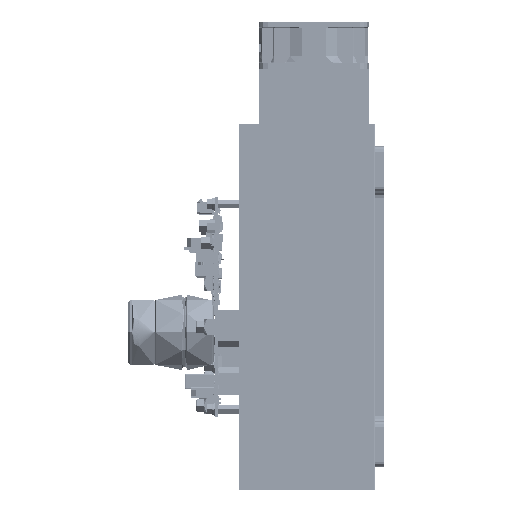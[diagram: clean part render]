
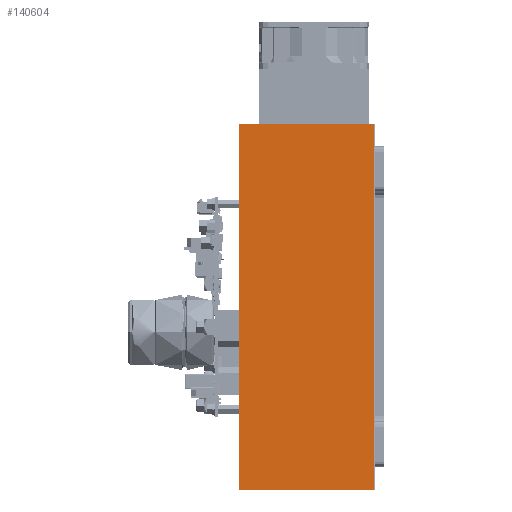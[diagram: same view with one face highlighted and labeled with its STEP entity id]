
A CAD part, left-side view. The second image highlights one B-rep face of the part: STEP entity #140604.
In plain terms, the highlighted planar face has unit normal (-1, 0, 0).
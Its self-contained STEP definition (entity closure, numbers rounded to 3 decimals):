
#17890 = VECTOR ( 'NONE', #834498, 1000. ) ;
#95005 = CARTESIAN_POINT ( 'NONE',  ( 32.578, 32.848, 283.303 ) ) ;
#138401 = PLANE ( 'NONE',  #766293 ) ;
#140604 = ADVANCED_FACE ( 'NONE', ( #1152364 ), #138401, .T. ) ;
#227979 = ORIENTED_EDGE ( 'NONE', *, *, #560835, .F. ) ;
#241891 = EDGE_CURVE ( 'NONE', #694124, #309439, #257683, .T. ) ;
#257683 = LINE ( 'NONE', #812526, #706000 ) ;
#280383 = DIRECTION ( 'NONE',  ( 0., 0., 1. ) ) ;
#309439 = VERTEX_POINT ( 'NONE', #325924 ) ;
#324967 = EDGE_CURVE ( 'NONE', #528565, #622160, #924040, .T. ) ;
#325924 = CARTESIAN_POINT ( 'NONE',  ( 32.578, 106.348, 83.303 ) ) ;
#363734 = EDGE_LOOP ( 'NONE', ( #1122705, #227979, #497659, #526424 ) ) ;
#447792 = DIRECTION ( 'NONE',  ( 0., 0., 1. ) ) ;
#497659 = ORIENTED_EDGE ( 'NONE', *, *, #241891, .F. ) ;
#518354 = CARTESIAN_POINT ( 'NONE',  ( 32.578, 32.848, 83.303 ) ) ;
#526424 = ORIENTED_EDGE ( 'NONE', *, *, #903239, .T. ) ;
#528565 = VERTEX_POINT ( 'NONE', #893514 ) ;
#560835 = EDGE_CURVE ( 'NONE', #309439, #622160, #1040417, .T. ) ;
#604175 = CARTESIAN_POINT ( 'NONE',  ( 32.578, 106.348, 183.303 ) ) ;
#622160 = VERTEX_POINT ( 'NONE', #727626 ) ;
#694124 = VERTEX_POINT ( 'NONE', #518354 ) ;
#706000 = VECTOR ( 'NONE', #818355, 1000. ) ;
#727626 = CARTESIAN_POINT ( 'NONE',  ( 32.578, 106.348, 283.303 ) ) ;
#766293 = AXIS2_PLACEMENT_3D ( 'NONE', #1080441, #845547, #447792 ) ;
#795151 = VECTOR ( 'NONE', #280383, 1000. ) ;
#812526 = CARTESIAN_POINT ( 'NONE',  ( 32.578, 32.848, 83.303 ) ) ;
#818355 = DIRECTION ( 'NONE',  ( 0., 1., 0. ) ) ;
#834498 = DIRECTION ( 'NONE',  ( 0., 1., 0. ) ) ;
#845547 = DIRECTION ( 'NONE',  ( -1., 0., 0. ) ) ;
#867035 = DIRECTION ( 'NONE',  ( 0., 0., 1. ) ) ;
#893514 = CARTESIAN_POINT ( 'NONE',  ( 32.578, 32.848, 283.303 ) ) ;
#903239 = EDGE_CURVE ( 'NONE', #694124, #528565, #1026164, .T. ) ;
#924040 = LINE ( 'NONE', #95005, #17890 ) ;
#1014356 = CARTESIAN_POINT ( 'NONE',  ( 32.578, 32.848, 183.303 ) ) ;
#1026164 = LINE ( 'NONE', #1014356, #795151 ) ;
#1040417 = LINE ( 'NONE', #604175, #1090847 ) ;
#1080441 = CARTESIAN_POINT ( 'NONE',  ( 32.578, 32.848, 183.303 ) ) ;
#1090847 = VECTOR ( 'NONE', #867035, 1000. ) ;
#1122705 = ORIENTED_EDGE ( 'NONE', *, *, #324967, .T. ) ;
#1152364 = FACE_OUTER_BOUND ( 'NONE', #363734, .T. ) ;
